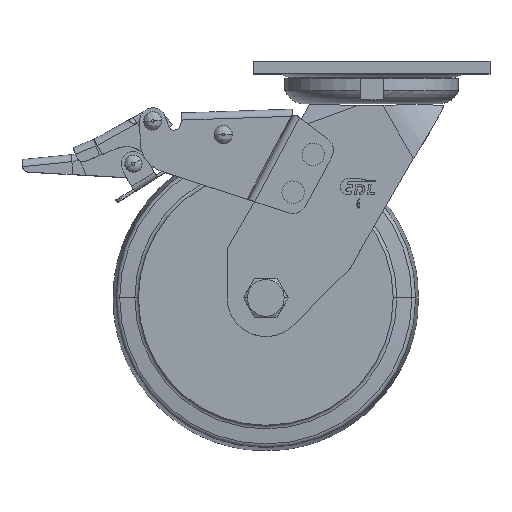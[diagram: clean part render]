
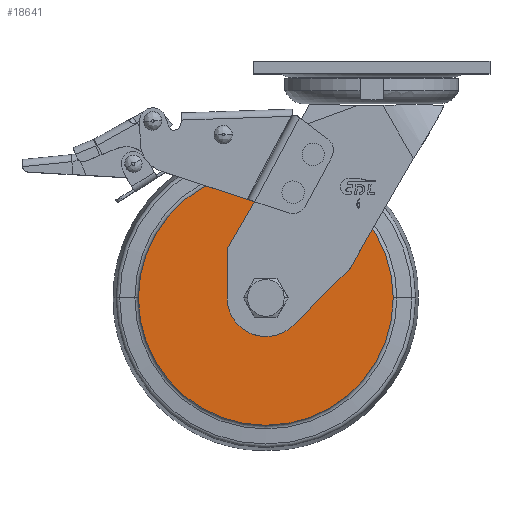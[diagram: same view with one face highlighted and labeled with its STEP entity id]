
A CAD part, top view. The second image highlights one B-rep face of the part: STEP entity #18641.
In plain terms, the highlighted planar face has unit normal (0, 0, 1) as drawn and (-1, 0, 0) by its records, which use the part's own axes.
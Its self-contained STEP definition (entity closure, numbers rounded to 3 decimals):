
#18176=CARTESIAN_POINT('',(-25.,0.,0.));
#18177=DIRECTION('',(-1.,0.,0.));
#18178=DIRECTION('',(0.,1.,0.));
#18179=AXIS2_PLACEMENT_3D('',#18176,#18177,#18178);
#18181=CARTESIAN_POINT('',(-25.,0.,0.));
#18182=DIRECTION('',(1.,0.,0.));
#18183=DIRECTION('',(0.,1.,0.));
#18184=AXIS2_PLACEMENT_3D('',#18181,#18182,#18183);
#18186=CARTESIAN_POINT('',(-25.,0.,0.));
#18187=DIRECTION('',(1.,0.,0.));
#18188=DIRECTION('',(0.,1.,0.));
#18189=AXIS2_PLACEMENT_3D('',#18186,#18187,#18188);
#18199=CARTESIAN_POINT('',(-25.,0.,0.));
#18200=DIRECTION('',(-1.,0.,0.));
#18201=DIRECTION('',(0.,1.,0.));
#18202=AXIS2_PLACEMENT_3D('',#18199,#18200,#18201);
#18330=CARTESIAN_POINT('',(-25.,62.5,0.));
#18331=VERTEX_POINT('',#18330);
#18332=CARTESIAN_POINT('',(-25.,12.,0.));
#18334=VERTEX_POINT('',#18332);
#18362=CARTESIAN_POINT('',(-25.,-62.5,0.));
#18363=VERTEX_POINT('',#18362);
#18364=CARTESIAN_POINT('',(-25.,-12.,0.));
#18366=VERTEX_POINT('',#18364);
#18626=CARTESIAN_POINT('',(-25.,0.,0.));
#18627=DIRECTION('',(1.,0.,0.));
#18628=DIRECTION('',(0.,-1.,0.));
#18629=AXIS2_PLACEMENT_3D('',#18626,#18627,#18628);
#18630=PLANE('',#18629);
#18631=ORIENTED_EDGE('',*,*,#18619,.F.);
#18632=ORIENTED_EDGE('',*,*,#18608,.T.);
#18633=EDGE_LOOP('',(#18631,#18632));
#18634=FACE_OUTER_BOUND('',#18633,.F.);
#18636=ORIENTED_EDGE('',*,*,#18635,.F.);
#18638=ORIENTED_EDGE('',*,*,#18637,.T.);
#18639=EDGE_LOOP('',(#18636,#18638));
#18640=FACE_BOUND('',#18639,.F.);
#18180=CIRCLE('',#18179,62.5);
#18185=CIRCLE('',#18184,62.5);
#18190=CIRCLE('',#18189,12.);
#18203=CIRCLE('',#18202,12.);
#18608=EDGE_CURVE('',#18331,#18363,#18185,.T.);
#18619=EDGE_CURVE('',#18331,#18363,#18180,.T.);
#18635=EDGE_CURVE('',#18334,#18366,#18190,.T.);
#18637=EDGE_CURVE('',#18334,#18366,#18203,.T.);
#18641=ADVANCED_FACE('',(#18634,#18640),#18630,.F.);
